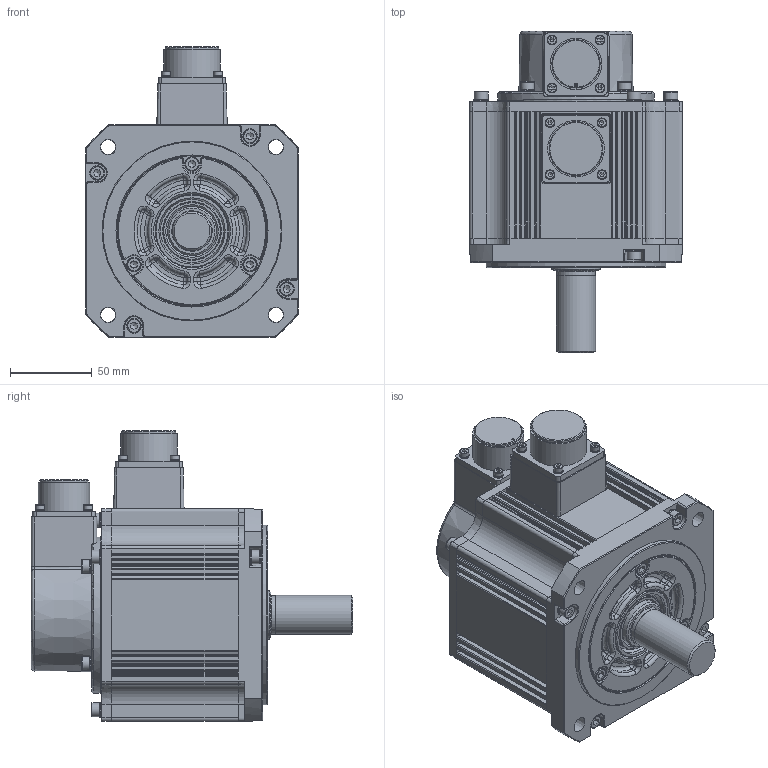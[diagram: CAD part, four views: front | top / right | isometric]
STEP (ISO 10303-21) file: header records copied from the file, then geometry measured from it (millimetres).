
FILE_DESCRIPTION((''),'2;1');
FILE_NAME('C:\Documents and Settings\11644\桌面\SME-M150.stp','2016-07-15T18:39:44',('11644'),(''),'Autodesk Inventor 2008','Autodesk Inventor 2008','');
FILE_SCHEMA(('AUTOMOTIVE_DESIGN { 1 0 10303 214 1 1 1 1 }'));
Length unit declared in the file: millimetre
Products named in the file (2): SME-M150; 零件226_4
Assembly tree (1 placements, depth 2):
  SME-M150
    零件226_4
Bounding box: 130 x 196.5 x 177.7 mm (x, y, z)
Volume: 1821960.4 mm3; surface area: 136828.5 mm2
Topology: 1 solids, 1 shells, 997 faces, 2472 edges, 1543 vertices
Faces by surface type: plane 454, cylinder 295, torus 113, cone 69, bspline 58, sphere 8
Full cylindrical faces by diameter (mm): 5.5 x8, 5.82 x8, 8.5 x15, 8.97 x15, 23.8 x1, 24 x1, 29.5 x1, 30 x1, 31.5 x1, 33 x1, 34.7 x1, 35.319 x1, 40.504 x1, 45 x1, 92 x1, 95.8 x1, 110 x1
Entity records: 31363 total; most frequent: CARTESIAN_POINT 7971, DIRECTION 4691, ORIENTED_EDGE 4404, EDGE_CURVE 2202, AXIS2_PLACEMENT_3D 1795, VERTEX_POINT 1449, EDGE_LOOP 1247, VECTOR 1101
